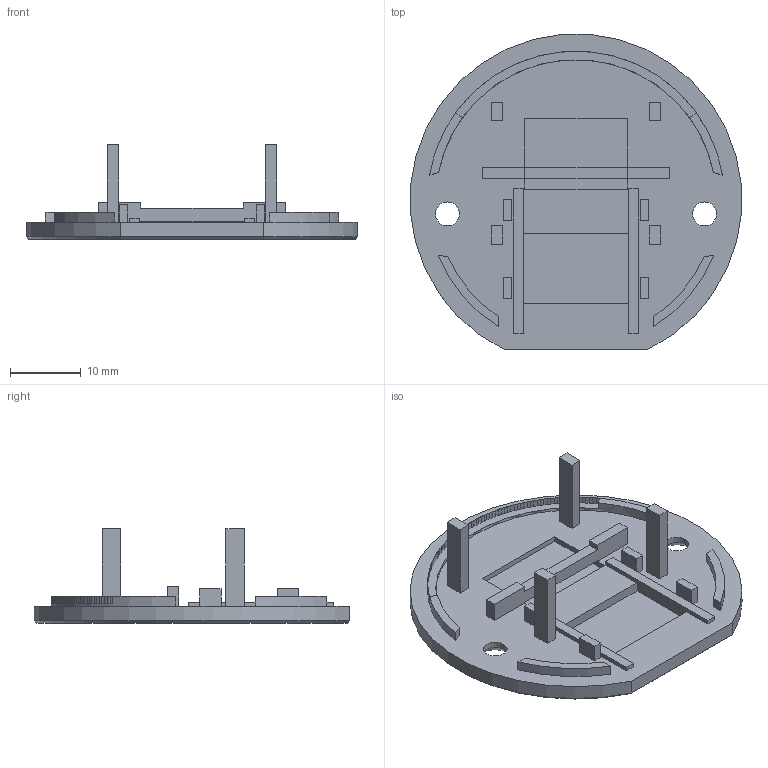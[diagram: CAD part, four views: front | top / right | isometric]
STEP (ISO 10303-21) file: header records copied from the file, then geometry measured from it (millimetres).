
FILE_DESCRIPTION(('Open CASCADE Model'),'2;1');
FILE_NAME('Open CASCADE Shape Model','2026-09-30T21:50:23',('Author'),( 'Open CASCADE'),'Open CASCADE STEP processor 7.9','Open CASCADE 7.9' ,'Unknown');
FILE_SCHEMA(('AUTOMOTIVE_DESIGN { 1 0 10303 214 1 1 1 1 }'));
Length unit declared in the file: millimetre
Products named in the file (1): Open CASCADE STEP translator 7.9 2
Bounding box: 46.84 x 44.61 x 13.4 mm (x, y, z)
Volume: 4123.7 mm3; surface area: 4774.8 mm2
Topology: 1 solids, 1 shells, 180 faces, 493 edges, 326 vertices
Faces by surface type: plane 164, cylinder 13, cone 3
Full cylindrical faces by diameter (mm): 3.4 x2
Entity records: 11862 total; most frequent: CARTESIAN_POINT 2352, DIRECTION 1613, LINE 1176, VECTOR 1176, ORIENTED_EDGE 986, PCURVE 986, DEFINITIONAL_REPRESENTATION 986, EDGE_CURVE 493
